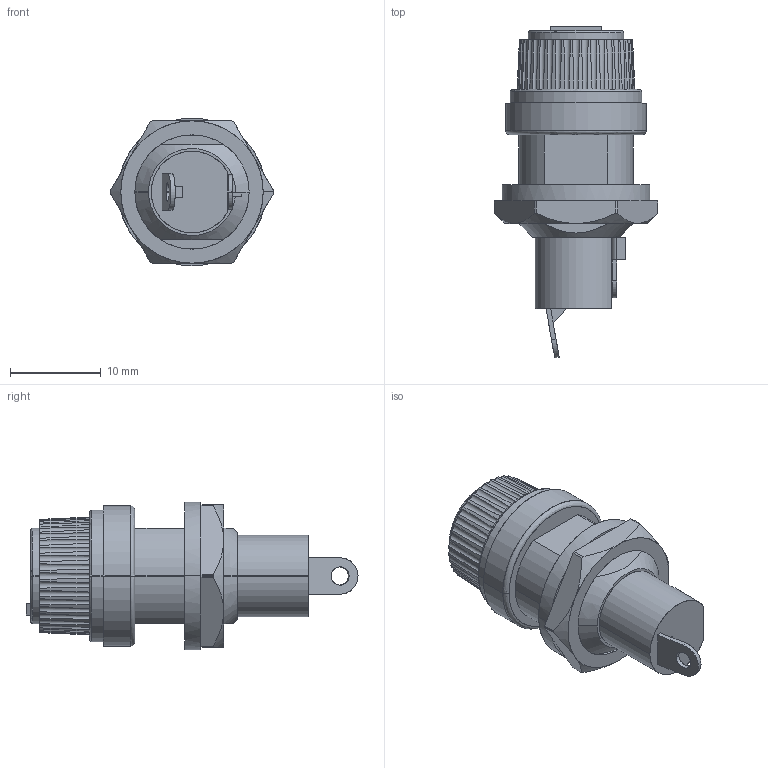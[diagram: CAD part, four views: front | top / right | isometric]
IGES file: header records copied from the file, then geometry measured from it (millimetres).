
Start section: SolidWorks IGES file using analytic representation for surfaces
Global section: file name: D:\X - Arquivos\PROEX\Empresas\P11 - METALTEX\01 - Produtos\IGES\7ª remessa\2ª etapa\102.IGS; native system: SolidWorks 2012; preprocessor: SolidWorks 2012; author: Usuario; date: 190912.140804; units: millimetre
Bounding box: 18 x 36.62 x 16.3 mm (x, y, z)
Surface area: 2006.6 mm2 (no closed solid volume)
Topology: 0 solids, 0 shells, 337 faces, 3645 edges, 3645 vertices
Faces by surface type: bspline 213, revolution 124
